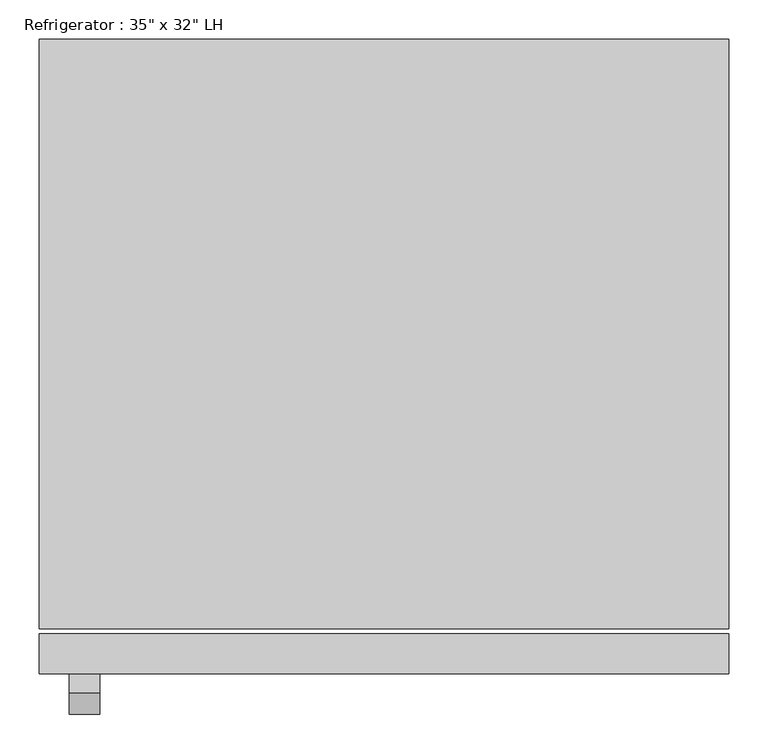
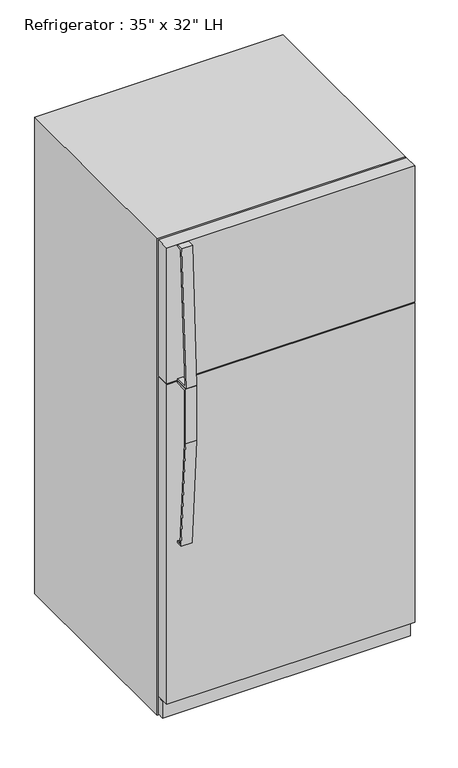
"""IFC4 building model written with IfcOpenShell, lengths in millimetres: proxy geometry."""

from ifc_helpers import new_model, si_unit, frame, origin, origin_with_axes, place, context, project, spatial, polyline, outline, extrude, source, transform, mapped, element, save


def proxy_93150df1(model_context):
    return source(origin(), model_context, "Body", "SweptSolid", [
        extrude(outline(polyline([(-417.9010285, 1262.0625), (-462.3510285, 1262.0625), (-462.3510285, 1065.4342469), (-434.8723987, 672.4715334), (-417.9010285, 672.4715334), (-417.9010285, 666.1370017), (-440.7949512, 666.1370017), (-468.7010285, 1065.2125), (-468.7010285, 1268.4125), (-417.9010285, 1268.4125), (-417.9010285, 1262.0625)])), frame((-400.05, 0.0, 0.0), z_axis=(1.0, 0.0, 0.0), x_axis=(0.0, 1.0, 0.0)), (0.0, 0.0, 1.0), 38.4332978),
        extrude(outline(polyline([(-442.739413, 1778.0), (-418.6780855, 1778.0), (-418.6780855, 1771.65), (-437.5263449, 1771.65), (-463.4007207, 1277.9375), (-418.6780855, 1277.9375), (-418.6780855, 1271.5875), (-469.2793675, 1271.5875), (-442.739413, 1778.0)])), frame((-400.05, 0.0, 0.0), z_axis=(1.0, 0.0, 0.0), x_axis=(0.0, 1.0, 0.0)), (0.0, 0.0, 1.0), 38.4332978),
        extrude(outline(polyline([(438.15, -367.1010285), (438.15, -392.5010285), (-438.15, -392.5010285), (-438.15, -367.1010285), (438.15, -367.1010285)])), frame((0.0, 0.0, 9.3816357), z_axis=(0.0, 0.0, 1.0), x_axis=(1.0, 0.0, 0.0)), (0.0, 0.0, 1.0), 63.5),
        extrude(outline(polyline([(438.15, -367.1010285), (438.15, -417.9010285), (-438.15, -417.9010285), (-438.15, -367.1010285), (438.15, -367.1010285)])), frame((0.0, 0.0, 76.2), z_axis=(0.0, 0.0, 1.0), x_axis=(1.0, 0.0, 0.0)), (0.0, 0.0, 1.0), 1192.2125),
        extrude(outline(polyline([(438.15, -367.1010285), (438.15, -417.9010285), (-438.15, -417.9010285), (-438.15, -367.1010285), (438.15, -367.1010285)])), frame((0.0, 0.0, 1271.5875), z_axis=(0.0, 0.0, 1.0), x_axis=(1.0, 0.0, 0.0)), (0.0, 0.0, 1.0), 506.4125),
        extrude(outline(polyline([(438.15, 388.5489715), (438.15, -360.7510285), (-438.15, -360.7510285), (-438.15, 388.5489715), (438.15, 388.5489715)])), origin_with_axes(), (0.0, 0.0, 1.0), 1778.0),
    ])


if __name__ == "__main__":
    model = new_model("IFC4")
    model_context = context("Model", 3, world=origin())
    ifc_project = project(units=[si_unit("LENGTHUNIT", "METRE", prefix="MILLI")], contexts=[model_context])
    site = spatial("IfcSite", under=ifc_project)
    building = spatial("IfcBuilding", under=site)
    placement = place(None, origin())
    proxy_shape = proxy_93150df1(model_context)
    element("IfcBuildingElementProxy", 1, Name="Refrigerator : 35\" x 32\" LH", ObjectType="Refrigerator : 35\" x 32\" LH", at=placement, inside=building, context=model_context, shape_type="MappedRepresentation", body=[
        mapped(proxy_shape, transform((0.0, 0.0, 0.0), x_axis=(1.0, 0.0, 0.0), y_axis=(0.0, 1.0, 0.0), z_axis=(0.0, 0.0, 1.0))),
    ])
    save(model, "model.ifc")
